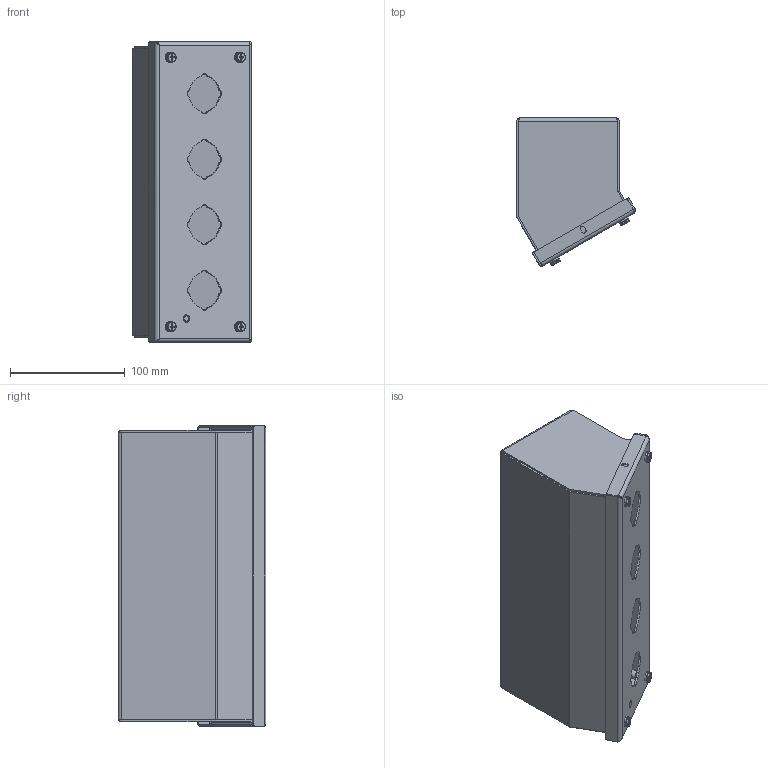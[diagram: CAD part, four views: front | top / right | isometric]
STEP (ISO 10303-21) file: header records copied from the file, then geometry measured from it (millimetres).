
FILE_DESCRIPTION((''),'2;1');
FILE_NAME('MODEL-043_ASM','2023-04-03T15:49:28',('joshi'),('SAGINAW CONTROL & ENGINEERING'),'CREO PARAMETRIC BY PTC INC, 2021284','CREO PARAMETRIC BY PTC INC, 2021284','');
FILE_SCHEMA(('AUTOMOTIVE_DESIGN { 1 0 10303 214 1 1 1 1 }'));
Length unit declared in the file: inch
Products named in the file (9): MODEL-043-BDY; MODEL-043-DR; 100063; 100983; 102534; MODEL-043-GSKT; 120706; 100009; MODEL-043_ASM
Assembly tree (14 placements, depth 2):
  MODEL-043_ASM
    MODEL-043-BDY
    MODEL-043-DR
    100063
    100983  x4
    102534  x4
    MODEL-043-GSKT
    120706
    100009
Bounding box: 103.5 x 128.92 x 261.94 mm (x, y, z)
Volume: 209258.6 mm3; surface area: 277835.9 mm2
Topology: 17 solids, 17 shells, 767 faces, 1910 edges, 1124 vertices
Faces by surface type: cylinder 292, plane 259, bspline 108, torus 80, cone 28
Entity records: 23227 total; most frequent: CARTESIAN_POINT 6608, DIRECTION 2476, ORIENTED_EDGE 2364, EDGE_CURVE 1182, PRESENTATION_STYLE_ASSIGNMENT 1093, STYLED_ITEM 1093, CURVE_STYLE 1018, AXIS2_PLACEMENT_3D 923
